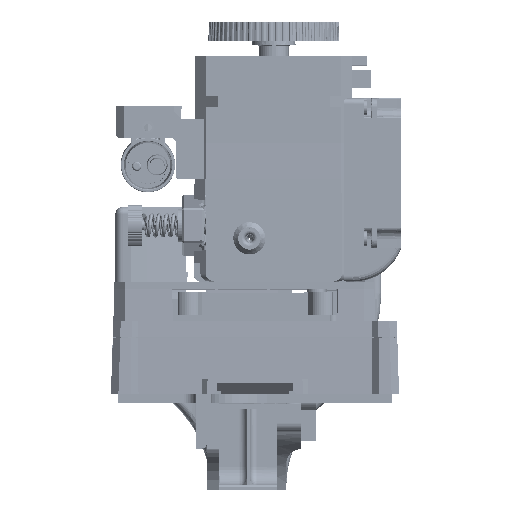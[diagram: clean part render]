
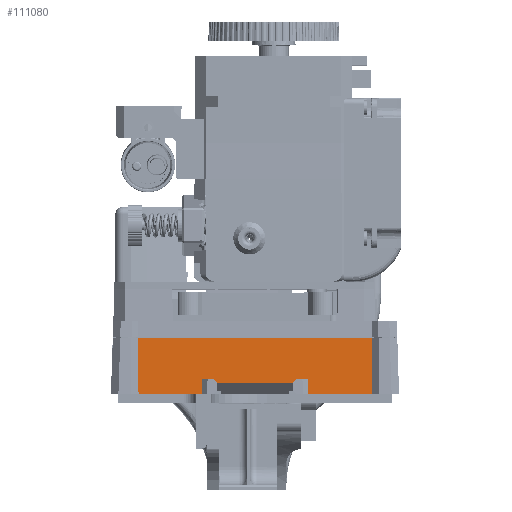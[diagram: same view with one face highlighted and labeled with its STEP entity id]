
A CAD part, top view. The second image highlights one B-rep face of the part: STEP entity #111080.
In plain terms, the highlighted planar face has unit normal (0, 0.018, 1) as drawn and (0, 1, -0.017) by its records, which use the part's own axes.
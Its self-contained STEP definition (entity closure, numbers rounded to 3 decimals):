
#2459=PLANE('',#120328);
#10570=FACE_OUTER_BOUND('',#17075,.T.);
#17075=EDGE_LOOP('',(#90333,#90334,#90335,#90336,#90337,#90338,#90339,#90340,
#90341,#90342,#90343,#90344));
#28506=LINE('',#249023,#37154);
#28508=LINE('',#249028,#37156);
#28510=LINE('',#249033,#37158);
#28511=LINE('',#249035,#37159);
#28512=LINE('',#249037,#37160);
#28513=LINE('',#249039,#37161);
#28514=LINE('',#249041,#37162);
#28515=LINE('',#249043,#37163);
#28516=LINE('',#249045,#37164);
#28517=LINE('',#249046,#37165);
#28518=LINE('',#249047,#37166);
#28519=LINE('',#249048,#37167);
#37154=VECTOR('',#140919,1000.);
#37156=VECTOR('',#140923,1000.);
#37158=VECTOR('',#140927,1000.);
#37159=VECTOR('',#140928,1000.);
#37160=VECTOR('',#140929,1000.);
#37161=VECTOR('',#140930,1000.);
#37162=VECTOR('',#140931,1000.);
#37163=VECTOR('',#140932,1000.);
#37164=VECTOR('',#140933,1000.);
#37165=VECTOR('',#140934,1000.);
#37166=VECTOR('',#140935,1000.);
#37167=VECTOR('',#140936,1000.);
#50602=VERTEX_POINT('',#249019);
#50603=VERTEX_POINT('',#249021);
#50604=VERTEX_POINT('',#249025);
#50605=VERTEX_POINT('',#249027);
#50606=VERTEX_POINT('',#249031);
#50607=VERTEX_POINT('',#249032);
#50608=VERTEX_POINT('',#249034);
#50609=VERTEX_POINT('',#249036);
#50610=VERTEX_POINT('',#249038);
#50611=VERTEX_POINT('',#249040);
#50612=VERTEX_POINT('',#249042);
#50613=VERTEX_POINT('',#249044);
#64734=EDGE_CURVE('',#50603,#50602,#28506,.T.);
#64736=EDGE_CURVE('',#50605,#50604,#28508,.T.);
#64738=EDGE_CURVE('',#50606,#50607,#28510,.T.);
#64739=EDGE_CURVE('',#50606,#50608,#28511,.T.);
#64740=EDGE_CURVE('',#50608,#50609,#28512,.T.);
#64741=EDGE_CURVE('',#50609,#50610,#28513,.T.);
#64742=EDGE_CURVE('',#50611,#50610,#28514,.T.);
#64743=EDGE_CURVE('',#50612,#50611,#28515,.T.);
#64744=EDGE_CURVE('',#50612,#50613,#28516,.T.);
#64745=EDGE_CURVE('',#50613,#50605,#28517,.T.);
#64746=EDGE_CURVE('',#50602,#50604,#28518,.T.);
#64747=EDGE_CURVE('',#50603,#50607,#28519,.T.);
#90333=ORIENTED_EDGE('',*,*,#64738,.F.);
#90334=ORIENTED_EDGE('',*,*,#64739,.T.);
#90335=ORIENTED_EDGE('',*,*,#64740,.T.);
#90336=ORIENTED_EDGE('',*,*,#64741,.T.);
#90337=ORIENTED_EDGE('',*,*,#64742,.F.);
#90338=ORIENTED_EDGE('',*,*,#64743,.F.);
#90339=ORIENTED_EDGE('',*,*,#64744,.T.);
#90340=ORIENTED_EDGE('',*,*,#64745,.T.);
#90341=ORIENTED_EDGE('',*,*,#64736,.T.);
#90342=ORIENTED_EDGE('',*,*,#64746,.F.);
#90343=ORIENTED_EDGE('',*,*,#64734,.F.);
#90344=ORIENTED_EDGE('',*,*,#64747,.T.);
#111080=ADVANCED_FACE('',(#10570),#2459,.F.);
#120328=AXIS2_PLACEMENT_3D('',#249030,#140925,#140926);
#140919=DIRECTION('',(-0.007,-0.017,-1.));
#140923=DIRECTION('',(0.007,-0.017,-1.));
#140925=DIRECTION('center_axis',(0.,-1.,
0.017));
#140926=DIRECTION('ref_axis',(0.,-0.017,-1.));
#140927=DIRECTION('',(-0.017,0.017,1.));
#140928=DIRECTION('',(1.,0.,0.));
#140929=DIRECTION('',(0.017,0.017,1.));
#140930=DIRECTION('',(1.,0.,0.));
#140931=DIRECTION('',(-0.017,0.017,1.));
#140932=DIRECTION('',(-1.,0.,0.));
#140933=DIRECTION('',(0.017,0.017,1.));
#140934=DIRECTION('',(1.,0.,0.));
#140935=DIRECTION('',(1.,0.,0.));
#140936=DIRECTION('',(1.,0.,0.));
#249019=CARTESIAN_POINT('',(-31.229,45.655,-15.));
#249021=CARTESIAN_POINT('',(-31.12,45.917,0.));
#249023=CARTESIAN_POINT('',(-31.229,45.654,-15.048));
#249025=CARTESIAN_POINT('',(31.229,45.655,-15.));
#249027=CARTESIAN_POINT('',(31.12,45.917,0.));
#249028=CARTESIAN_POINT('',(31.232,45.646,-15.5));
#249030=CARTESIAN_POINT('Origin',(31.232,45.646,-15.5));
#249031=CARTESIAN_POINT('',(-14.18,45.847,-3.995));
#249032=CARTESIAN_POINT('',(-14.25,45.917,0.));
#249033=CARTESIAN_POINT('',(-14.106,45.772,-8.274));
#249034=CARTESIAN_POINT('',(-12.32,45.847,-3.995));
#249035=CARTESIAN_POINT('',(31.232,45.847,-3.995));
#249036=CARTESIAN_POINT('',(-12.301,45.865,-2.949));
#249037=CARTESIAN_POINT('',(-12.507,45.66,-14.737));
#249038=CARTESIAN_POINT('',(12.301,45.865,-2.949));
#249039=CARTESIAN_POINT('',(31.232,45.865,-2.949));
#249040=CARTESIAN_POINT('',(12.32,45.847,-3.995));
#249041=CARTESIAN_POINT('',(12.526,45.641,-15.826));
#249042=CARTESIAN_POINT('',(14.18,45.847,-3.995));
#249043=CARTESIAN_POINT('',(31.232,45.847,-3.995));
#249044=CARTESIAN_POINT('',(14.25,45.917,0.));
#249045=CARTESIAN_POINT('',(14.106,45.772,-8.273));
#249046=CARTESIAN_POINT('',(31.138,45.917,0.));
#249047=CARTESIAN_POINT('',(31.232,45.655,-15.));
#249048=CARTESIAN_POINT('',(31.138,45.917,0.));
